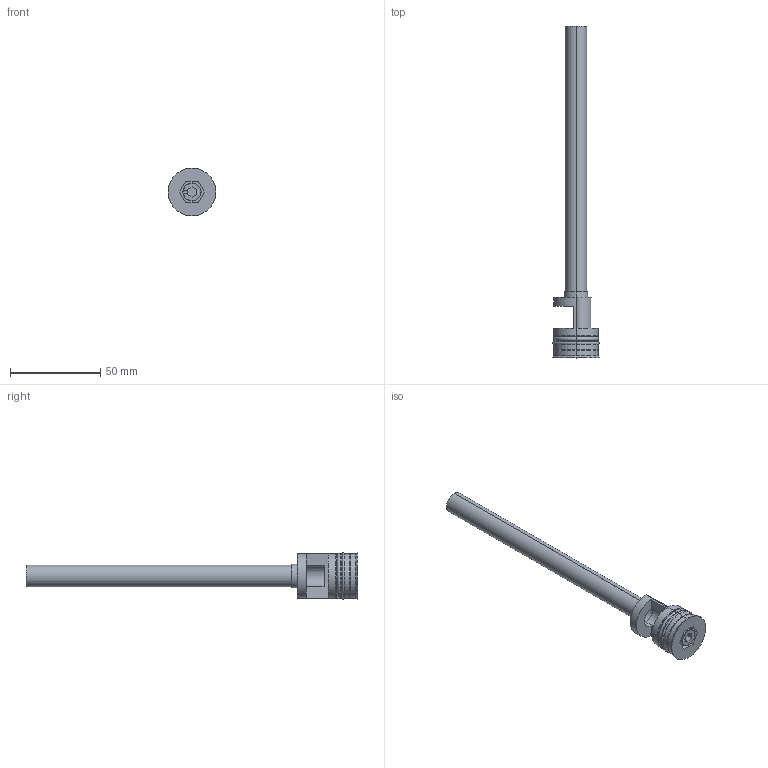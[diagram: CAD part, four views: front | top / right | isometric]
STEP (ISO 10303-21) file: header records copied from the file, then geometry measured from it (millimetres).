
FILE_DESCRIPTION (( 'STEP AP203' ), '1' );
FILE_NAME ('RF-25Fx150.STEP', '2015-11-24T14:02:44', ( 'Balzi' ), ( '' ), 'SwSTEP 2.0', 'SolidWorks 2015', '' );
FILE_SCHEMA (( 'CONFIG_CONTROL_DESIGN' ));
Length unit declared in the file: millimetre
Products named in the file (1): RF-25Fx150
Bounding box: 26.5 x 183.5 x 26.5 mm (x, y, z)
Volume: 12799.4 mm3; surface area: 15683.2 mm2
Topology: 1 solids, 1 shells, 74 faces, 170 edges, 106 vertices
Faces by surface type: plane 27, cylinder 25, cone 14, torus 8
Entity records: 2194 total; most frequent: DIRECTION 401, CARTESIAN_POINT 370, ORIENTED_EDGE 340, EDGE_CURVE 170, AXIS2_PLACEMENT_3D 161, VERTEX_POINT 106, CIRCLE 86, EDGE_LOOP 84
